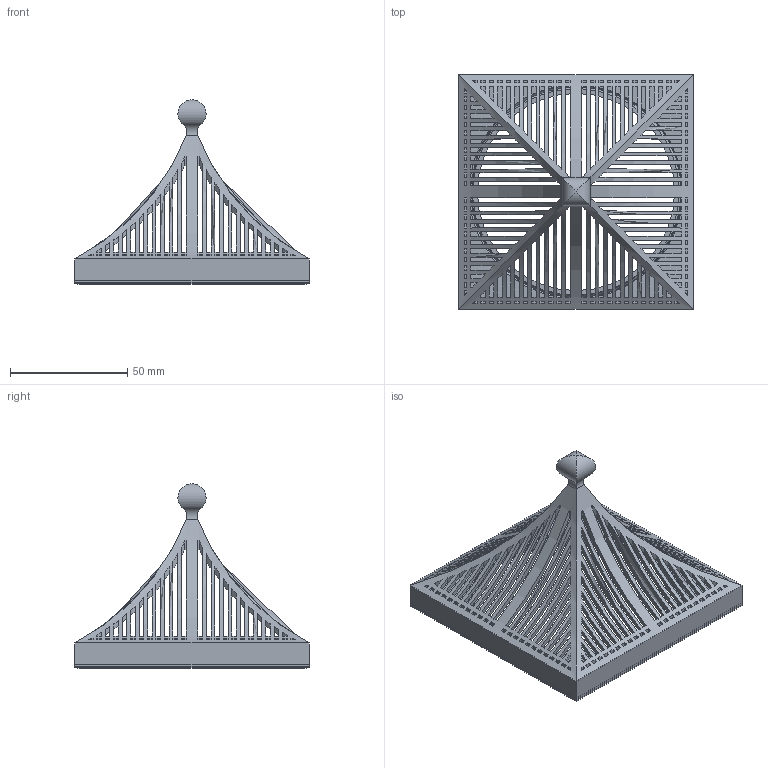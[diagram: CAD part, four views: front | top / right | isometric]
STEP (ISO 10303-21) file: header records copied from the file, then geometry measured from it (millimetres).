
FILE_DESCRIPTION(/* description */ ('STEP AP214','CAx-IF Rec.Pracs.---User Defined Attributes---1.5---2016-08-15'),/* implementation_level */ '2;1');
FILE_NAME(/* name */ '6ae31edbf048ba5c842f5cf4',/* time_stamp */ '2026-10-29T10:24:29Z',/* author */ (''),/* organization */ (''),/* preprocessor_version */ 'ST-DEVELOPER v20',/* originating_system */ 'ONSHAPE BY PTC INC, 1.222',/* authorisation */ ' ');
FILE_SCHEMA (('AUTOMOTIVE_DESIGN {1 0 10303 214 3 1 1}'));
Length unit declared in the file: metre
Products named in the file (3): screw_fine_tuning_ring_so_that_it_aligns; roof_top; roof_male_thread
Bounding box: 100 x 100 x 78.67 mm (x, y, z)
Volume: 48776.4 mm3; surface area: 54951 mm2
Topology: 3 solids, 3 shells, 891 faces, 2334 edges, 1548 vertices
Faces by surface type: plane 851, cylinder 29, bspline 7, cone 4
Full cylindrical faces by diameter (mm): 84 x1, 92.4 x1, 97.4 x1
Entity records: 28935 total; most frequent: CARTESIAN_POINT 5880, DIRECTION 4814, ORIENTED_EDGE 4656, EDGE_CURVE 2328, AXIS2_PLACEMENT_3D 1636, VERTEX_POINT 1547, LINE 1542, VECTOR 1542
